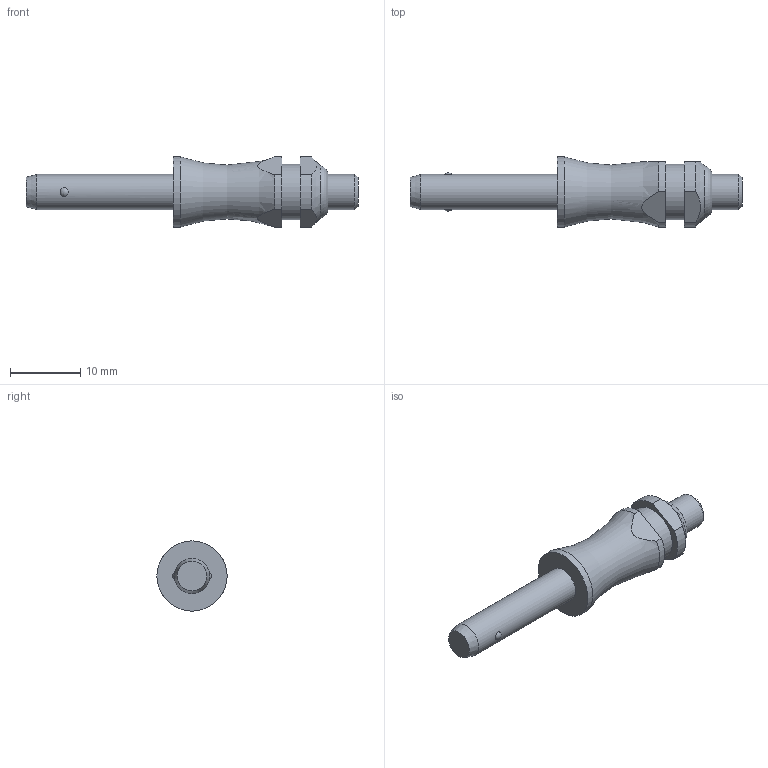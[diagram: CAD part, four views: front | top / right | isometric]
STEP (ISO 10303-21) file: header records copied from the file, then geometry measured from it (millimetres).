
FILE_DESCRIPTION( ( 'STEP AP203' ), '1' );
FILE_NAME( 'C:/Temp/Ganter_Step_05_03_2020/data/3_1/gn113_3/Stainless Steel-Ball lock pin GN 113.3-5-15 (deactivated).stp', '2020-03-12T08:18:08', ( 'License CC BY-ND 4.0' ), ( 'CADENAS' ), ' ', 'PARTsolutions', ' ' );
FILE_SCHEMA( ( 'CONFIG_CONTROL_DESIGN' ) );
Length unit declared in the file: millimetre
Products named in the file (1): _Stainless Steel-Ball lock pin GN 113.3-5-15 (deactivated)
Bounding box: 47.3 x 10 x 10 mm (x, y, z)
Volume: 1748.9 mm3; surface area: 1149.4 mm2
Topology: 1 solids, 1 shells, 29 faces, 61 edges, 40 vertices
Faces by surface type: plane 12, cylinder 10, cone 3, torus 2, sphere 2
Full cylindrical faces by diameter (mm): 5 x2, 7.9 x1, 10 x1
Entity records: 902 total; most frequent: CARTESIAN_POINT 272, DIRECTION 126, ORIENTED_EDGE 100, AXIS2_PLACEMENT_3D 54, EDGE_CURVE 50, EDGE_LOOP 44, VERTEX_POINT 38, FACE_OUTER_BOUND 35
